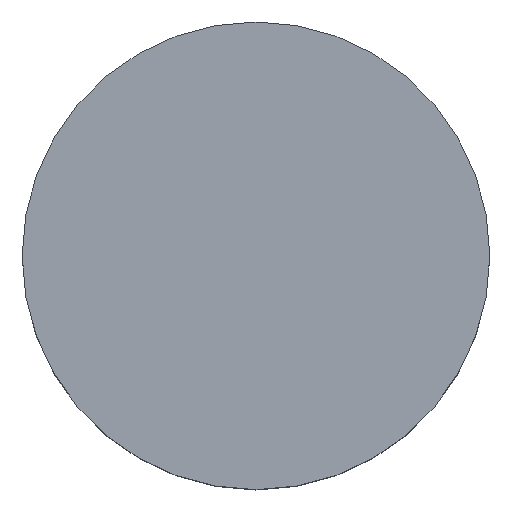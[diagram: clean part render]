
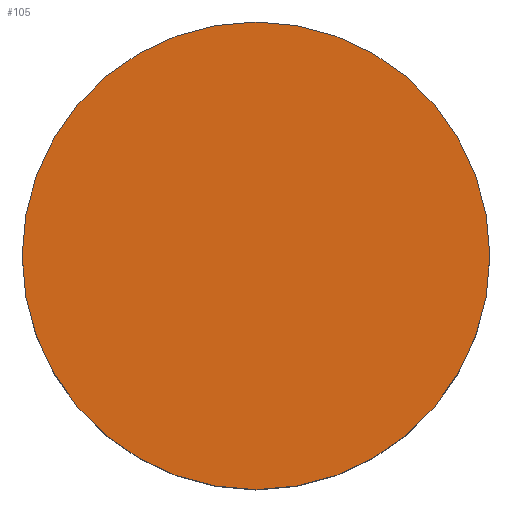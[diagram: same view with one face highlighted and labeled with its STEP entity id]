
A CAD part, top view. The second image highlights one B-rep face of the part: STEP entity #105.
In plain terms, the highlighted planar face has unit normal (0, 0, 1).
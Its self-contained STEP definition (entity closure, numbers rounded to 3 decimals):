
#21 = EDGE_CURVE('',#22,#22,#24,.T.);
#22 = VERTEX_POINT('',#23);
#23 = CARTESIAN_POINT('',(17.8,0.,18.07));
#24 = SURFACE_CURVE('',#25,(#30,#42),.PCURVE_S1.);
#25 = CIRCLE('',#26,17.8);
#26 = AXIS2_PLACEMENT_3D('',#27,#28,#29);
#27 = CARTESIAN_POINT('',(0.,0.,18.07));
#28 = DIRECTION('',(0.,0.,1.));
#29 = DIRECTION('',(1.,0.,-0.));
#30 = PCURVE('',#31,#36);
#31 = CYLINDRICAL_SURFACE('',#32,17.8);
#32 = AXIS2_PLACEMENT_3D('',#33,#34,#35);
#33 = CARTESIAN_POINT('',(0.,0.,3.));
#34 = DIRECTION('',(0.,0.,1.));
#35 = DIRECTION('',(1.,0.,-0.));
#36 = DEFINITIONAL_REPRESENTATION('',(#37),#41);
#37 = LINE('',#38,#39);
#38 = CARTESIAN_POINT('',(0.,15.07));
#39 = VECTOR('',#40,1.);
#40 = DIRECTION('',(1.,0.));
#41 = ( GEOMETRIC_REPRESENTATION_CONTEXT(2) 
PARAMETRIC_REPRESENTATION_CONTEXT() REPRESENTATION_CONTEXT('2D SPACE',''
  ) );
#42 = PCURVE('',#43,#48);
#43 = PLANE('',#44);
#44 = AXIS2_PLACEMENT_3D('',#45,#46,#47);
#45 = CARTESIAN_POINT('',(0.,0.,18.07));
#46 = DIRECTION('',(0.,0.,1.));
#47 = DIRECTION('',(1.,0.,-0.));
#48 = DEFINITIONAL_REPRESENTATION('',(#49),#53);
#49 = CIRCLE('',#50,17.8);
#50 = AXIS2_PLACEMENT_2D('',#51,#52);
#51 = CARTESIAN_POINT('',(0.,0.));
#52 = DIRECTION('',(1.,0.));
#53 = ( GEOMETRIC_REPRESENTATION_CONTEXT(2) 
PARAMETRIC_REPRESENTATION_CONTEXT() REPRESENTATION_CONTEXT('2D SPACE',''
  ) );
#105 = ADVANCED_FACE('',(#106),#43,.T.);
#106 = FACE_BOUND('',#107,.T.);
#107 = EDGE_LOOP('',(#108));
#108 = ORIENTED_EDGE('',*,*,#21,.T.);
